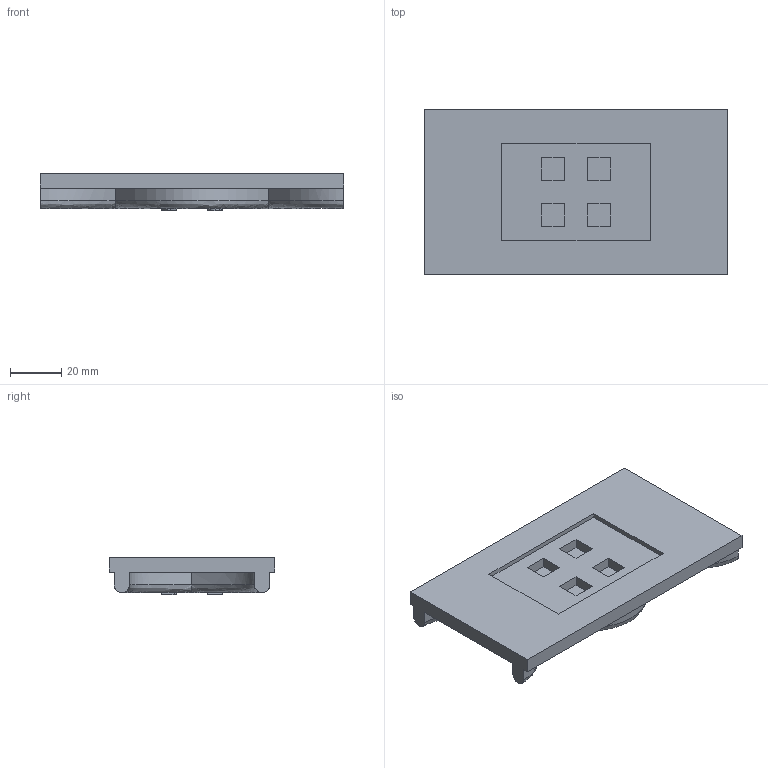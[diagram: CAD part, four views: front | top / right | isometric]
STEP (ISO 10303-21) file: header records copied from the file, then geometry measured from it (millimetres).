
FILE_DESCRIPTION(/* description */ (''),/* implementation_level */ '2;1');
FILE_NAME(/* name */ 'C:/Users/Quentin/Documents/FabAcademy/Fusion360/DNA_keypad/20210425_DNA_keypad.step',/* time_stamp */ '2021-04-25T11:28:26+02:00',/* author */ (''),/* organization */ (''),/* preprocessor_version */ 'ST-DEVELOPER v18.1',/* originating_system */ 'Autodesk Translation Framework v10.6.0.1341',/* authorisation */ '');
FILE_SCHEMA (('AUTOMOTIVE_DESIGN { 1 0 10303 214 3 1 1 }'));
Length unit declared in the file: millimetre
Products named in the file (2): DNA_keypad_v2; keypad_rendering
Assembly tree (1 placements, depth 2):
  DNA_keypad_v2
    keypad_rendering
Bounding box: 119 x 65 x 14.6 mm (x, y, z)
Volume: 60045.4 mm3; surface area: 24490.3 mm2
Topology: 1 solids, 1 shells, 275 faces, 707 edges, 444 vertices
Faces by surface type: plane 123, bspline 68, cylinder 68, torus 16
Entity records: 10532 total; most frequent: CARTESIAN_POINT 4327, ORIENTED_EDGE 1414, DIRECTION 1039, EDGE_CURVE 707, VERTEX_POINT 444, LINE 411, VECTOR 411, AXIS2_PLACEMENT_3D 314
